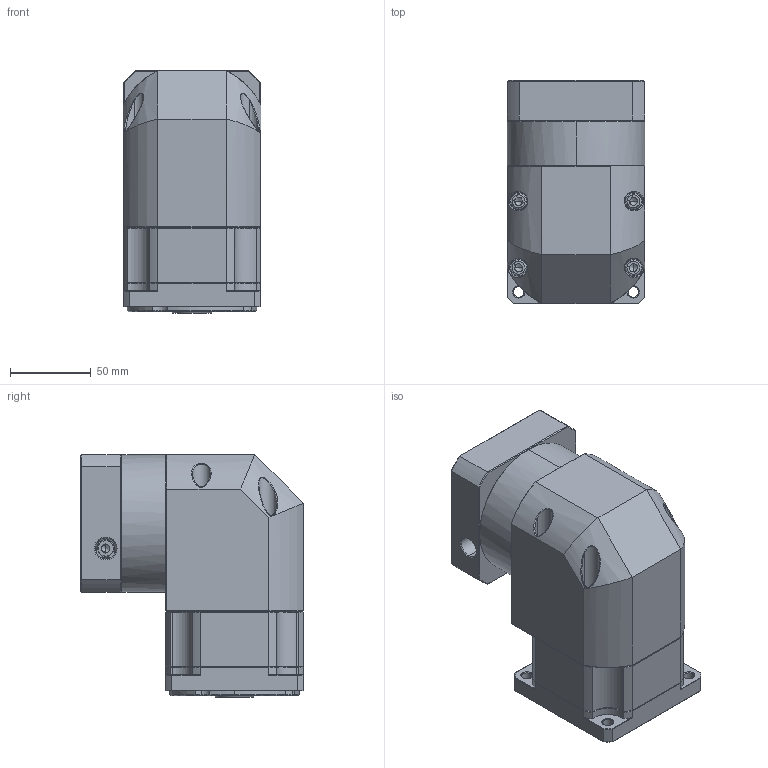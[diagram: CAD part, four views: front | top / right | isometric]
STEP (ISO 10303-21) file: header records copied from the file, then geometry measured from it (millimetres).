
FILE_DESCRIPTION (( 'STEP AP214' ), '1' );
FILE_NAME ('ZBR090-K15-L1-P2-14-60-75-M5.step', '2023-08-19T02:08:41', ( '' ), ( '' ), 'SwSTEP 2.0', 'SolidWorks 2016', '' );
FILE_SCHEMA (( 'AUTOMOTIVE_DESIGN' ));
Length unit declared in the file: millimetre
Products named in the file (1): ZBR090-K15-L1-P2-14-60-75-M5
Bounding box: 85 x 137.6 x 150 mm (x, y, z)
Volume: 1174794 mm3; surface area: 127362.3 mm2
Topology: 5 solids, 5 shells, 2353 faces, 6146 edges, 3883 vertices
Faces by surface type: plane 1169, bspline 414, cylinder 408, cone 338, torus 24
Entity records: 123976 total; most frequent: CARTESIAN_POINT 43718, ORIENTED_EDGE 12220, DIRECTION 9751, EDGE_CURVE 6110, VECTOR 3957, LINE 3957, VERTEX_POINT 3883, AXIS2_PLACEMENT_3D 2897
